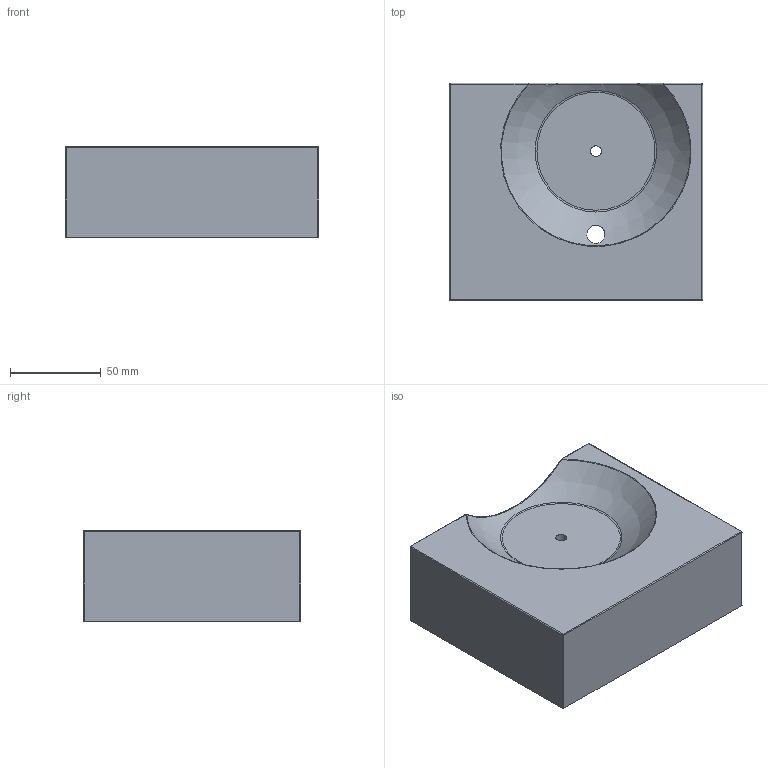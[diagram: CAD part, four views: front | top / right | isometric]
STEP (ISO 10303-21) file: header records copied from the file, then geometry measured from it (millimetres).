
FILE_DESCRIPTION( ( 'STEP AP203' ), '1' );
FILE_NAME( ' ', ' ', ( ' ' ), ( ' ' ), 'PSStep 10.0', ' ', ' ' );
FILE_SCHEMA( ( 'CONFIG_CONTROL_DESIGN' ) );
Length unit declared in the file: millimetre
Products named in the file (1): 1
Bounding box: 140 x 120 x 50 mm (x, y, z)
Volume: 201407.1 mm3; surface area: 80312.7 mm2
Topology: 1 solids, 1 shells, 57 faces, 140 edges, 74 vertices
Faces by surface type: cylinder 22, plane 14, sphere 14, torus 7
Full cylindrical faces by diameter (mm): 6 x1, 10 x1
Entity records: 1816 total; most frequent: CARTESIAN_POINT 519, DIRECTION 286, ORIENTED_EDGE 240, EDGE_CURVE 120, AXIS2_PLACEMENT_3D 119, VERTEX_POINT 70, EDGE_LOOP 66, FACE_OUTER_BOUND 61
